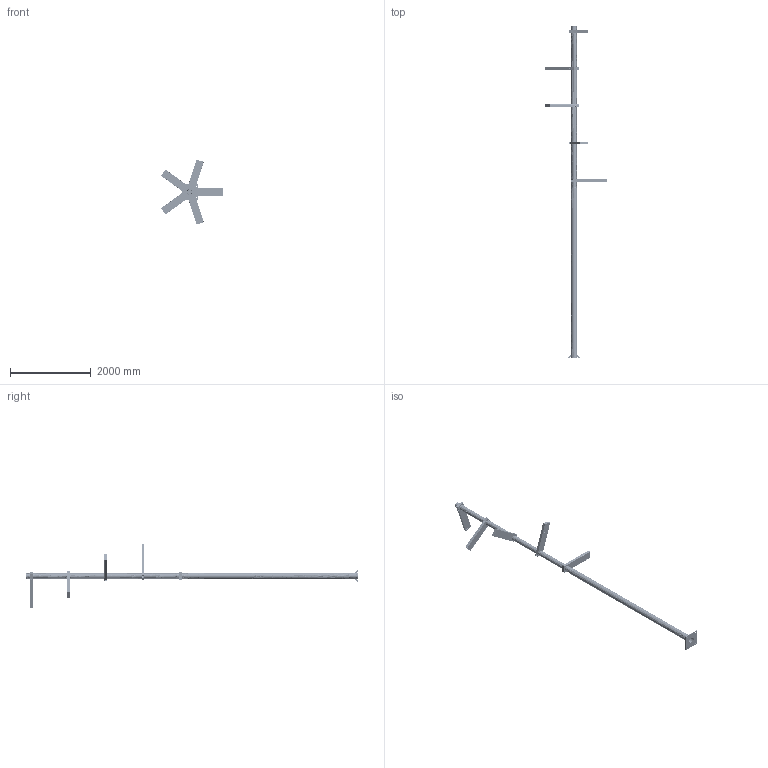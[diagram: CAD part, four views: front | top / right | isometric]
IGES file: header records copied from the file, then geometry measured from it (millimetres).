
Start section: SolidWorks IGES file using analytic representation for surfaces
Global section: file name: C:\SANTACOLE_PDM\Proyectos Catálogo\PROD-P08-042 -- RAMA LED\6_Técnico comercial\3D WEB\FAROLA RAMA LED 8.2M 5 LUMINARIAS DISTINTA ALTURA 2 SECCIONES.IGS; native system: SolidWorks 2013; preprocessor: SolidWorks 2013; author: MarioV; date: 150331.185918; units: millimetre
Bounding box: 1526.17 x 8200 x 1604.18 mm (x, y, z)
Volume: 23597040.3 mm3; surface area: 13159641.6 mm2
Topology: 122 solids, 122 shells, 17733 faces, 47308 edges, 29758 vertices
Faces by surface type: plane 11028, revolution 3912, bspline 2793
